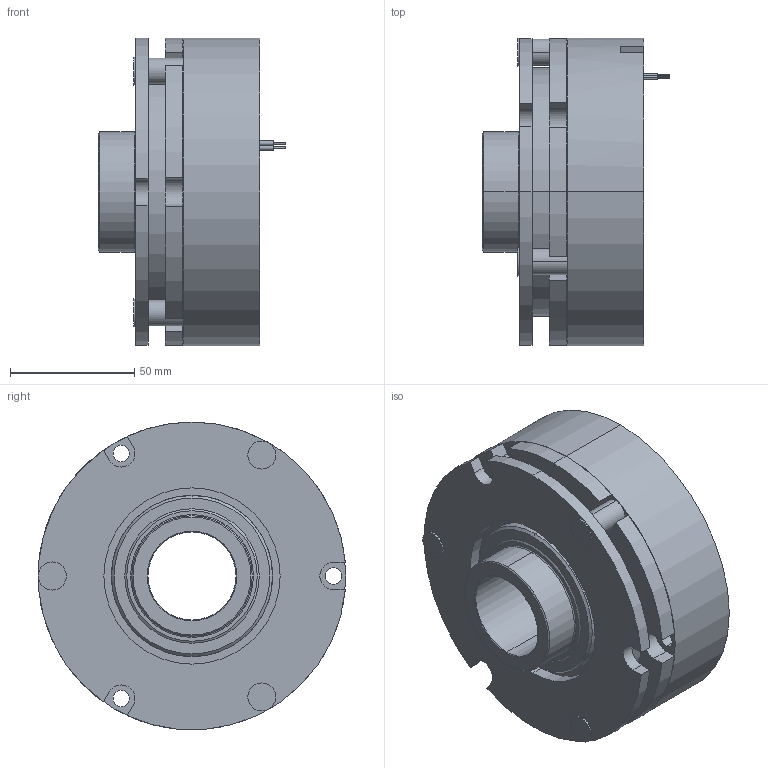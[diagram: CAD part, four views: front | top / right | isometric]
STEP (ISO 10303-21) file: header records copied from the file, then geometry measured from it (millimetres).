
FILE_DESCRIPTION (( 'STEP AP203' ), '1' );
FILE_NAME ('KS_10012A00_Customer_3D_model_19.12.17.STEP', '2018-01-16T10:20:17', ( '' ), ( '' ), 'SwSTEP 2.0', 'SolidWorks 2015', '' );
FILE_SCHEMA (( 'CONFIG_CONTROL_DESIGN' ));
Length unit declared in the file: millimetre
Products named in the file (1): KS_10012A00_Customer_3D_model_19.12.17
Bounding box: 75.48 x 124 x 124 mm (x, y, z)
Volume: 517718.4 mm3; surface area: 85646.1 mm2
Topology: 1 solids, 1 shells, 138 faces, 330 edges, 214 vertices
Faces by surface type: cylinder 73, plane 43, cone 16, torus 4, bspline 2
Entity records: 4197 total; most frequent: DIRECTION 780, CARTESIAN_POINT 719, ORIENTED_EDGE 660, EDGE_CURVE 330, AXIS2_PLACEMENT_3D 315, VERTEX_POINT 214, CIRCLE 178, EDGE_LOOP 172
